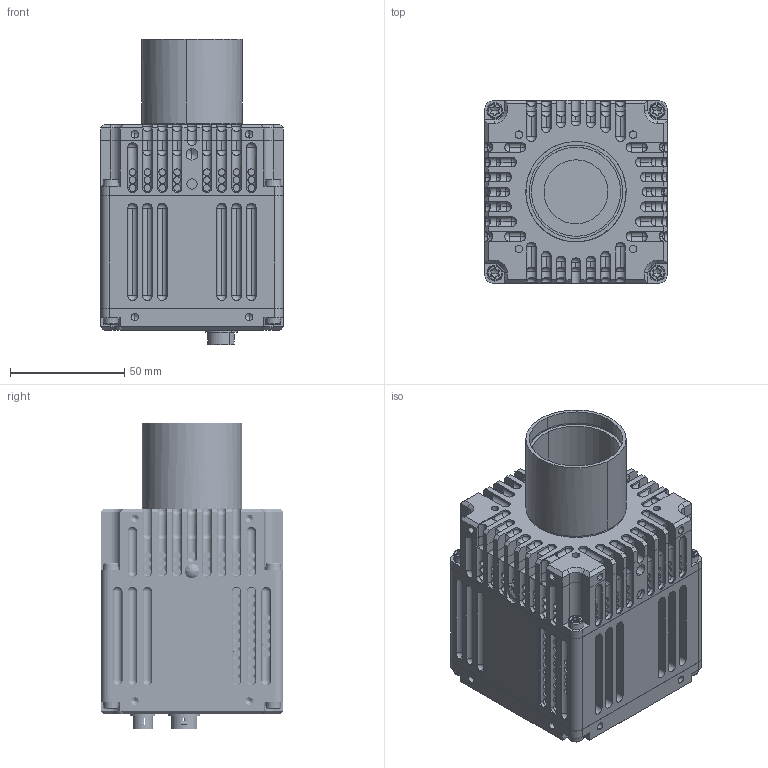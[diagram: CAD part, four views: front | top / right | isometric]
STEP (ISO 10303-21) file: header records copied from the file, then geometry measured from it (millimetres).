
FILE_DESCRIPTION (( 'STEP AP214' ), '1' );
FILE_NAME ('Goldeye_G_Cool_M42-Mount.STEP', '2014-11-26T07:41:28', ( 'service' ), ( '' ), 'SwSTEP 2.0', 'SolidWorks 2013', '' );
FILE_SCHEMA (( 'AUTOMOTIVE_DESIGN' ));
Length unit declared in the file: millimetre
Products named in the file (1): Goldeye_G_Cool_M42-Mount
Bounding box: 80 x 80 x 133.55 mm (x, y, z)
Volume: 534306 mm3; surface area: 86111.8 mm2
Topology: 3 solids, 6 shells, 3379 faces, 8565 edges, 5218 vertices
Faces by surface type: cylinder 1563, plane 1302, sphere 188, bspline 152, cone 150, torus 24
Entity records: 129483 total; most frequent: CARTESIAN_POINT 33951, DIRECTION 16646, ORIENTED_EDGE 16548, EDGE_CURVE 8274, AXIS2_PLACEMENT_3D 6117, VERTEX_POINT 5201, LINE 4412, VECTOR 4412
